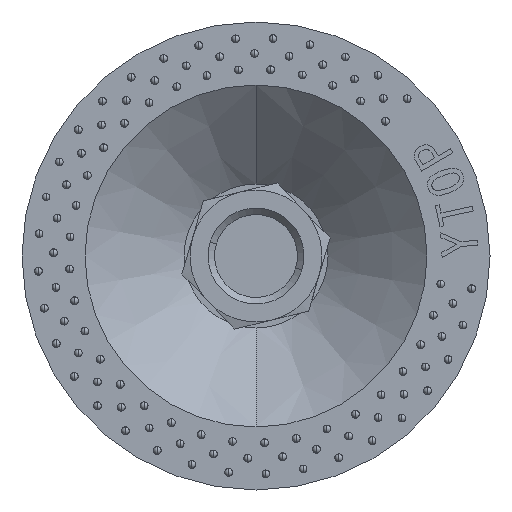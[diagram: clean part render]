
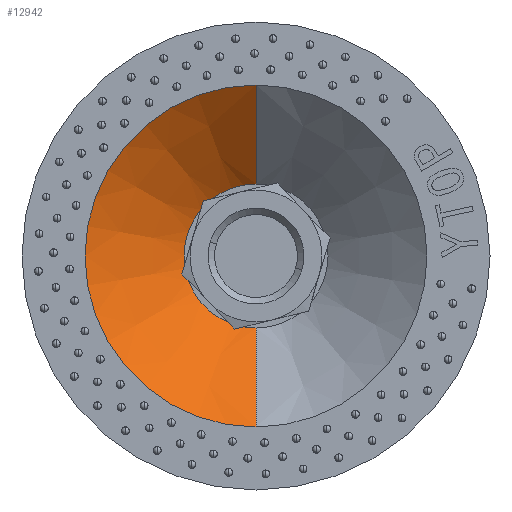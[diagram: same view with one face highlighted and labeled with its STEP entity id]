
A CAD part, front view. The second image highlights one B-rep face of the part: STEP entity #12942.
In plain terms, the highlighted conical face has half-angle 49.079 degrees and reference radius 28.5 mm.
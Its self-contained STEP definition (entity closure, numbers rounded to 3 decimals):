
#148 = DIRECTION ( 'NONE',  ( 0., 0., 1. ) ) ;
#174 = VERTEX_POINT ( 'NONE', #741 ) ;
#741 = CARTESIAN_POINT ( 'NONE',  ( 0., 5.597, -28.5 ) ) ;
#2353 = DIRECTION ( 'NONE',  ( 0., -0.655, -0.756 ) ) ;
#2868 = EDGE_LOOP ( 'NONE', ( #12545, #17866, #16316, #9524 ) ) ;
#3015 = VERTEX_POINT ( 'NONE', #20826 ) ;
#3217 = CARTESIAN_POINT ( 'NONE',  ( 0., 5.597, 0. ) ) ;
#3534 = CARTESIAN_POINT ( 'NONE',  ( 0., 5.597, 28.5 ) ) ;
#4005 = LINE ( 'NONE', #7209, #7274 ) ;
#4445 = VERTEX_POINT ( 'NONE', #6885 ) ;
#4459 = LINE ( 'NONE', #3534, #16489 ) ;
#5056 = DIRECTION ( 'NONE',  ( 0., 0., -1. ) ) ;
#5144 = VERTEX_POINT ( 'NONE', #11035 ) ;
#6885 = CARTESIAN_POINT ( 'NONE',  ( 0., 5.597, 28.5 ) ) ;
#7209 = CARTESIAN_POINT ( 'NONE',  ( 0., 5.597, -28.5 ) ) ;
#7274 = VECTOR ( 'NONE', #2353, 1000. ) ;
#8633 = CIRCLE ( 'NONE', #17636, 12. ) ;
#9524 = ORIENTED_EDGE ( 'NONE', *, *, #14732, .F. ) ;
#9747 = DIRECTION ( 'NONE',  ( 0., 1., 0. ) ) ;
#10898 = EDGE_CURVE ( 'NONE', #174, #4445, #11865, .T. ) ;
#11035 = CARTESIAN_POINT ( 'NONE',  ( 0., 19.9, 12. ) ) ;
#11865 = CIRCLE ( 'NONE', #20334, 28.5 ) ;
#12313 = FACE_OUTER_BOUND ( 'NONE', #2868, .T. ) ;
#12545 = ORIENTED_EDGE ( 'NONE', *, *, #19312, .T. ) ;
#12721 = DIRECTION ( 'NONE',  ( 0., 0., 1. ) ) ;
#12942 = ADVANCED_FACE ( 'NONE', ( #12313 ), #16853, .F. ) ;
#14152 = AXIS2_PLACEMENT_3D ( 'NONE', #3217, #17767, #5056 ) ;
#14211 = CARTESIAN_POINT ( 'NONE',  ( 0., 19.9, 0. ) ) ;
#14732 = EDGE_CURVE ( 'NONE', #3015, #174, #4005, .T. ) ;
#16290 = EDGE_CURVE ( 'NONE', #5144, #4445, #4459, .T. ) ;
#16316 = ORIENTED_EDGE ( 'NONE', *, *, #10898, .F. ) ;
#16489 = VECTOR ( 'NONE', #19698, 1000. ) ;
#16853 = CONICAL_SURFACE ( 'NONE', #14152, 28.5, 0.857 ) ;
#17636 = AXIS2_PLACEMENT_3D ( 'NONE', #14211, #19231, #12721 ) ;
#17767 = DIRECTION ( 'NONE',  ( 0., -1., 0. ) ) ;
#17866 = ORIENTED_EDGE ( 'NONE', *, *, #16290, .T. ) ;
#19231 = DIRECTION ( 'NONE',  ( 0., 1., 0. ) ) ;
#19312 = EDGE_CURVE ( 'NONE', #3015, #5144, #8633, .T. ) ;
#19456 = CARTESIAN_POINT ( 'NONE',  ( 0., 5.597, 0. ) ) ;
#19698 = DIRECTION ( 'NONE',  ( 0., -0.655, 0.756 ) ) ;
#20334 = AXIS2_PLACEMENT_3D ( 'NONE', #19456, #9747, #148 ) ;
#20826 = CARTESIAN_POINT ( 'NONE',  ( 0., 19.9, -12. ) ) ;
